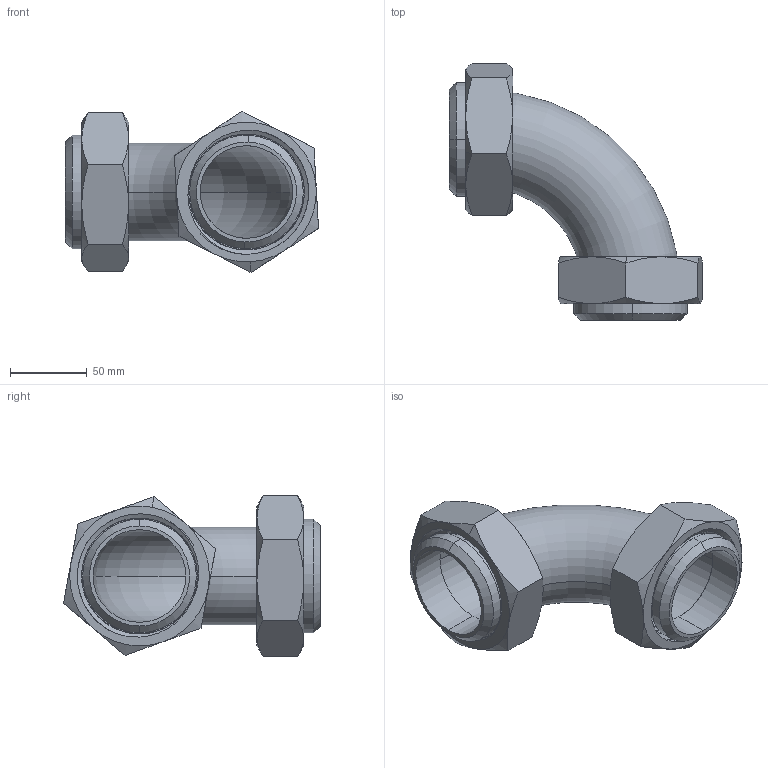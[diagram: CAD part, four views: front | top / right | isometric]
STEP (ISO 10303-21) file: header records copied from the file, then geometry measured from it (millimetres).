
FILE_DESCRIPTION (( 'STEP AP214' ), '1' );
FILE_NAME ('2E 2.5.STEP', '2025-08-26T20:05:25', ( '' ), ( '' ), 'SwSTEP 2.0', 'SolidWorks 2023', '' );
FILE_SCHEMA (( 'AUTOMOTIVE_DESIGN' ));
Length unit declared in the file: millimetre
Products named in the file (4): 2WCL2.5; 14PR 2.5 REV2; 2E 2.5; 13H2.5
Assembly tree (5 placements, depth 2):
  2E 2.5
    13H2.5  x2
    2WCL2.5
    14PR 2.5 REV2  x2
Bounding box: 164.36 x 166.93 x 104.68 mm (x, y, z)
Volume: 232312.2 mm3; surface area: 131525.5 mm2
Topology: 5 solids, 5 shells, 112 faces, 254 edges, 158 vertices
Faces by surface type: cylinder 40, cone 32, plane 30, bspline 6, torus 4
Entity records: 2905 total; most frequent: CARTESIAN_POINT 1520, DIRECTION 267, ORIENTED_EDGE 266, EDGE_CURVE 133, AXIS2_PLACEMENT_3D 116, VERTEX_POINT 83, EDGE_LOOP 68, FACE_OUTER_BOUND 59
